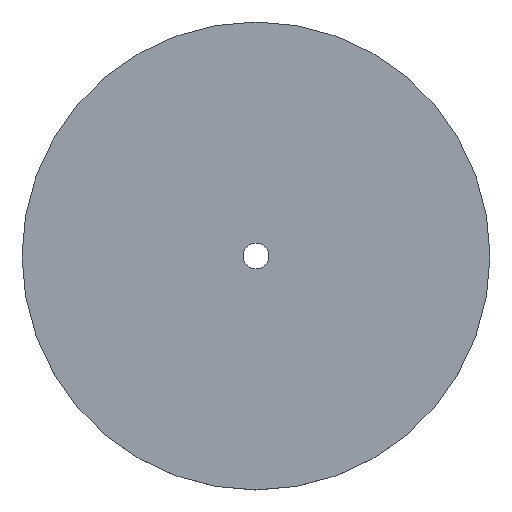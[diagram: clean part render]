
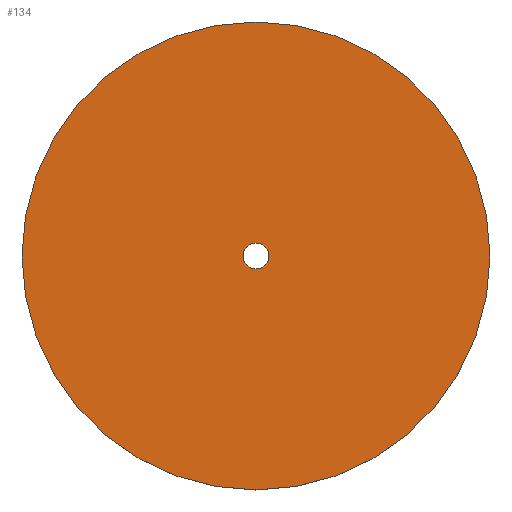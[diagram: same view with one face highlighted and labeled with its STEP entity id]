
A CAD part, top view. The second image highlights one B-rep face of the part: STEP entity #134.
In plain terms, the highlighted planar face has unit normal (0, 0, 1).
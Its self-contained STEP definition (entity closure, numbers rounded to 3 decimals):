
#29=CARTESIAN_POINT('',(0.,0.,0.7));
#30=DIRECTION('',(0.,0.,1.));
#31=DIRECTION('',(1.,0.,0.));
#32=AXIS2_PLACEMENT_3D('',#29,#30,#31);
#34=CARTESIAN_POINT('',(0.,0.,0.7));
#35=DIRECTION('',(0.,0.,1.));
#36=DIRECTION('',(-1.,0.,0.));
#37=AXIS2_PLACEMENT_3D('',#34,#35,#36);
#39=CARTESIAN_POINT('',(0.,0.,0.7));
#40=DIRECTION('',(0.,0.,1.));
#41=DIRECTION('',(1.,0.,0.));
#42=AXIS2_PLACEMENT_3D('',#39,#40,#41);
#44=CARTESIAN_POINT('',(0.,0.,0.7));
#45=DIRECTION('',(0.,0.,1.));
#46=DIRECTION('',(-1.,0.,0.));
#47=AXIS2_PLACEMENT_3D('',#44,#45,#46);
#61=CARTESIAN_POINT('',(6.35,0.,0.7));
#62=CARTESIAN_POINT('',(-6.35,0.,0.7));
#63=VERTEX_POINT('',#61);
#64=VERTEX_POINT('',#62);
#69=CARTESIAN_POINT('',(0.35,0.,0.7));
#70=CARTESIAN_POINT('',(-0.35,0.,0.7));
#71=VERTEX_POINT('',#69);
#72=VERTEX_POINT('',#70);
#119=CARTESIAN_POINT('',(0.,0.,0.7));
#120=DIRECTION('',(0.,0.,1.));
#121=DIRECTION('',(1.,0.,0.));
#122=AXIS2_PLACEMENT_3D('',#119,#120,#121);
#123=PLANE('',#122);
#124=ORIENTED_EDGE('',*,*,#99,.F.);
#125=ORIENTED_EDGE('',*,*,#113,.F.);
#126=EDGE_LOOP('',(#124,#125));
#127=FACE_OUTER_BOUND('',#126,.F.);
#129=ORIENTED_EDGE('',*,*,#128,.T.);
#131=ORIENTED_EDGE('',*,*,#130,.T.);
#132=EDGE_LOOP('',(#129,#131));
#133=FACE_BOUND('',#132,.F.);
#134=ADVANCED_FACE('',(#127,#133),#123,.T.);
#33=CIRCLE('',#32,6.35);
#38=CIRCLE('',#37,6.35);
#43=CIRCLE('',#42,0.35);
#48=CIRCLE('',#47,0.35);
#99=EDGE_CURVE('',#63,#64,#33,.T.);
#113=EDGE_CURVE('',#64,#63,#38,.T.);
#128=EDGE_CURVE('',#71,#72,#43,.T.);
#130=EDGE_CURVE('',#72,#71,#48,.T.);
